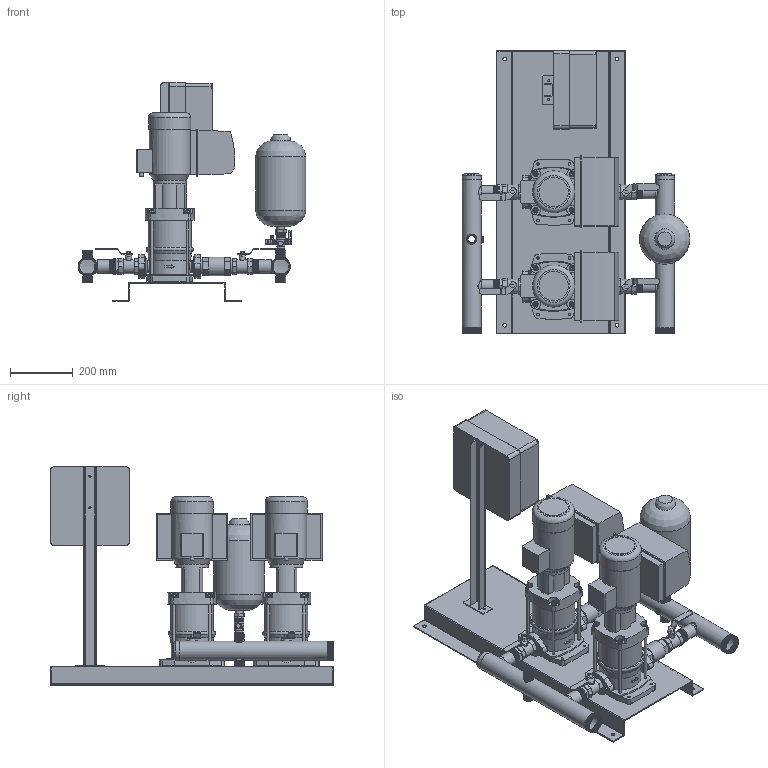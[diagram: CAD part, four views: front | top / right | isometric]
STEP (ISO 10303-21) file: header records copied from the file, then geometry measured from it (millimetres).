
FILE_DESCRIPTION(/* description */ (''),/* implementation_level */ '2;1');
FILE_NAME(/* name */ 'C:\Inventor Master Files\Exports\ExeFlexx WRAS\ExeFlexx WRAS 2B\ExeFlexx WRAS 2B-5 2 MH.stp',/* time_stamp */ '2015-01-23T12:09:06+00:00',/* author */ ('sean.austen'),/* organization */ (''),/* preprocessor_version */ 'ST-DEVELOPER v15.2',/* originating_system */ 'Autodesk Inventor 2014',/* authorisation */ '');
FILE_SCHEMA (('AUTOMOTIVE_DESIGN { 1 0 10303 214 3 1 1 }'));
Length unit declared in the file: millimetre
Products named in the file (12): Type B 1220000131; DPV 2 5B; 1110000206 - 1.25'' Spring Check Valve; 1240000030; NQ-0220T; 1080000034  - W 2 x 2 x 1-25 WRAS Manifold; flowjet_3_4; 5L Vessel; Stand Silver; MH Small; Fitting 15mm length; ExeFlexx WRAS 2B-5 2 MH
Bounding box: 725.15 x 900 x 695 mm (x, y, z)
Volume: 35252001.5 mm3; surface area: 3559217 mm2
Topology: 45 solids, 49 shells, 1805 faces, 4638 edges, 3076 vertices
Faces by surface type: plane 840, cylinder 659, cone 197, bspline 47, torus 47, sphere 15
Full cylindrical faces by diameter (mm): 1.5 x1, 5 x1, 6 x4, 7 x2, 7.006 x1, 8 x33, 8.5 x1, 9 x16, 10 x8, 10.775 x2, 11 x9, 11.5 x20, 12 x4, 13 x1, 13.16 x1, 14 x2, 14.5 x1, 15 x5, 15.5 x1, 16 x8, 16.05 x2, 17 x3, 18 x2, 18.2 x2, 19 x3, 20 x4, 22 x4, 22.5 x1, 23 x1, 23.1 x1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
Entity records: 42930 total; most frequent: CARTESIAN_POINT 18896, ORIENTED_EDGE 4676, DIRECTION 4658, EDGE_CURVE 2336, AXIS2_PLACEMENT_3D 1889, VERTEX_POINT 1698, EDGE_LOOP 1392, ADVANCED_FACE 1002
